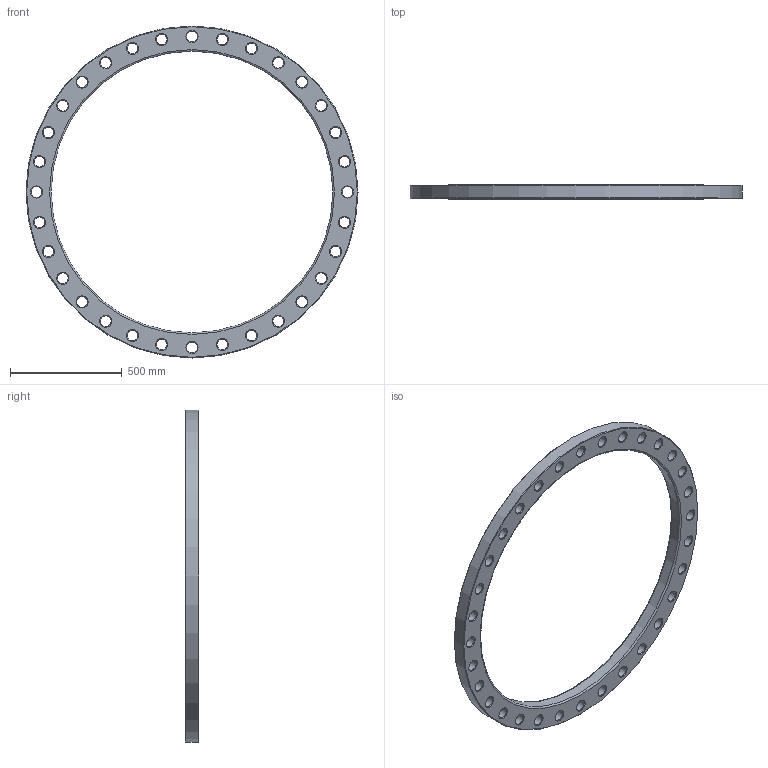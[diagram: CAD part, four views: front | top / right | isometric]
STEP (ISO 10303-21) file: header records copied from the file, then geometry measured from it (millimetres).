
FILE_DESCRIPTION(/* description */ ('Unknown'),/* implementation_level */ '2;1');
FILE_NAME(/* name */ 'FZ1200C',/* time_stamp */ '2021-03-15T12:40:00+01:00',/* author */ ('Unknown'),/* organization */ ('Unknown'),/* preprocessor_version */ 'ST-DEVELOPER v16.7',/* originating_system */ 'Solid Edge',/* authorisation */ 'Unknown');
FILE_SCHEMA (('AUTOMOTIVE_DESIGN {1 0 10303 214 3 1 1}'));
Length unit declared in the file: millimetre
Products named in the file (1): FZ1200C
Bounding box: 1485 x 61 x 1485 mm (x, y, z)
Volume: 25887092.4 mm3; surface area: 1618377 mm2
Topology: 1 solids, 1 shells, 104 faces, 334 edges, 232 vertices
Faces by surface type: cone 66, cylinder 34, plane 2, torus 2
Full cylindrical faces by diameter (mm): 48 x32, 1260 x1, 1485 x1
Entity records: 2566 total; most frequent: DIRECTION 482, CARTESIAN_POINT 377, ORIENTED_EDGE 272, EDGE_LOOP 272, FACE_BOUND 272, AXIS2_PLACEMENT_3D 241, EDGE_CURVE 136, VERTEX_POINT 136
